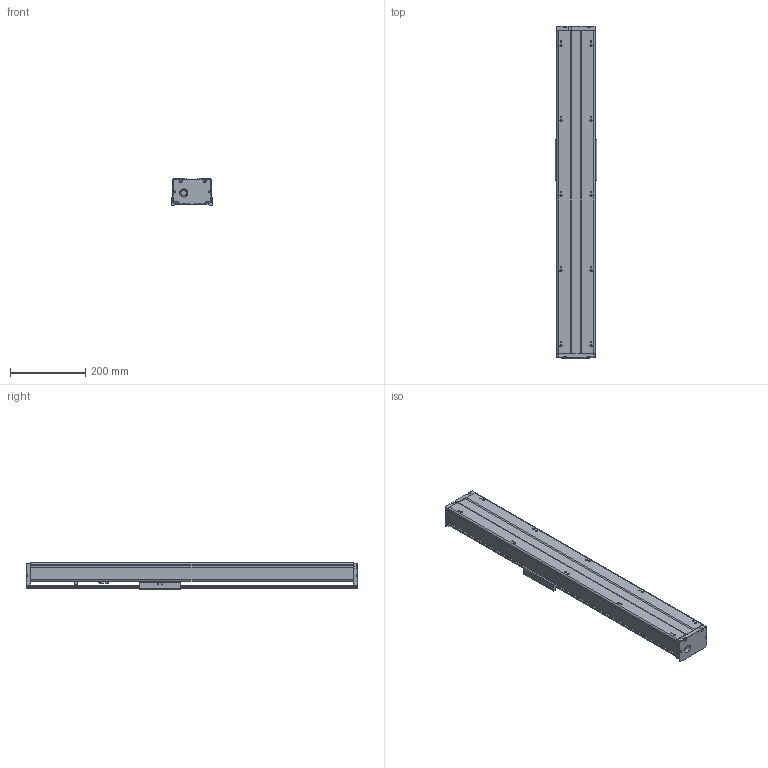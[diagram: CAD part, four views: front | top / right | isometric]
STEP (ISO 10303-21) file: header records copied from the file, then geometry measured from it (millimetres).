
FILE_DESCRIPTION(/* description */ (''),/* implementation_level */ '2;1');
FILE_NAME(/* name */ 'TKA100-500A1FI_asm1.stp',/* time_stamp */ '2017-02-21T08:33:34+08:00',/* author */ (''),/* organization */ (''),/* preprocessor_version */ 'ST-DEVELOPER v15',/* originating_system */ 'SIEMENS PLM Software NX 8.5',/* authorisation */ '');
FILE_SCHEMA (('AUTOMOTIVE_DESIGN { 1 0 10303 214 3 1 1 1 }'));
Length unit declared in the file: millimetre
Products named in the file (3): 200-02; 200-01; TKA100-500A1FI_asm1_stp
Assembly tree (2 placements, depth 2):
  TKA100-500A1FI_asm1_stp
    200-01
    200-02
Bounding box: 110 x 884 x 71 mm (x, y, z)
Volume: 1931190.4 mm3; surface area: 622314.3 mm2
Topology: 2 solids, 9 shells, 849 faces, 2190 edges, 1387 vertices
Faces by surface type: plane 357, cylinder 285, cone 147, torus 34, bspline 26
Full cylindrical faces by diameter (mm): 2.5 x4, 2.6 x8, 3.3 x8, 3.4 x4, 3.8 x4, 4.2 x19, 4.3 x4, 4.5 x4, 5 x1, 5.5 x22, 6.6 x4, 8 x5, 9 x4, 10 x10, 11 x4, 12 x7, 15.3 x1, 16 x1, 22 x1, 24 x1, 28 x5, 30 x1
Entity records: 30256 total; most frequent: CARTESIAN_POINT 10496, DIRECTION 4104, ORIENTED_EDGE 3842, EDGE_CURVE 1921, AXIS2_PLACEMENT_3D 1582, VERTEX_POINT 1316, EDGE_LOOP 1131, LINE 940
